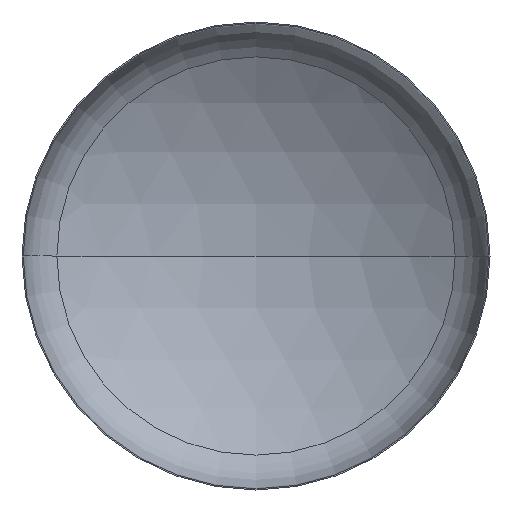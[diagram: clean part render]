
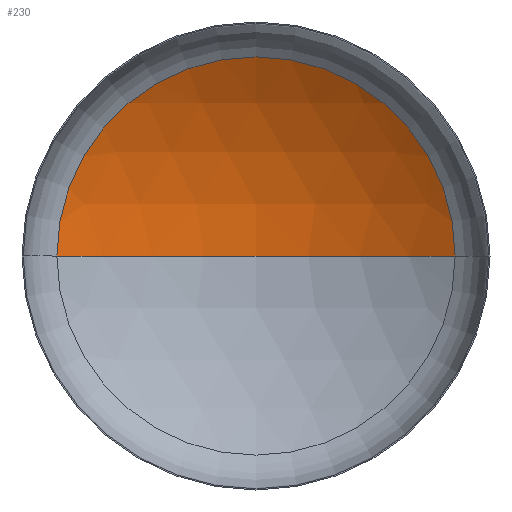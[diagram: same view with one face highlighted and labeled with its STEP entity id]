
A CAD part, front view. The second image highlights one B-rep face of the part: STEP entity #230.
In plain terms, the highlighted spherical face has radius 6000 mm.
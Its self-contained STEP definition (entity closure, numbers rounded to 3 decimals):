
#6 = CIRCLE ( 'NONE', #77, 6000. ) ;
#14 = VERTEX_POINT ( 'NONE', #261 ) ;
#27 = DIRECTION ( 'NONE',  ( -1., 0., 0. ) ) ;
#28 = DIRECTION ( 'NONE',  ( 0., 0., -1. ) ) ;
#32 = CARTESIAN_POINT ( 'NONE',  ( 0., -4047.816, 0. ) ) ;
#37 = AXIS2_PLACEMENT_3D ( 'NONE', #266, #376, #290 ) ;
#50 = DIRECTION ( 'NONE',  ( 1., 0., 0. ) ) ;
#77 = AXIS2_PLACEMENT_3D ( 'NONE', #406, #309, #112 ) ;
#81 = VERTEX_POINT ( 'NONE', #253 ) ;
#83 = AXIS2_PLACEMENT_3D ( 'NONE', #32, #28, #27 ) ;
#85 = AXIS2_PLACEMENT_3D ( 'NONE', #345, #343, #50 ) ;
#112 = DIRECTION ( 'NONE',  ( 1., 0., 0. ) ) ;
#125 = ORIENTED_EDGE ( 'NONE', *, *, #145, .T. ) ;
#138 = ORIENTED_EDGE ( 'NONE', *, *, #147, .T. ) ;
#145 = EDGE_CURVE ( 'NONE', #14, #81, #148, .T. ) ;
#147 = EDGE_CURVE ( 'NONE', #231, #14, #305, .T. ) ;
#148 = CIRCLE ( 'NONE', #85, 3191.331 ) ;
#151 = EDGE_CURVE ( 'NONE', #231, #81, #6, .T. ) ;
#156 = EDGE_LOOP ( 'NONE', ( #388, #138, #125 ) ) ;
#230 = ADVANCED_FACE ( 'NONE', ( #286 ), #295, .F. ) ;
#231 = VERTEX_POINT ( 'NONE', #353 ) ;
#253 = CARTESIAN_POINT ( 'NONE',  ( -3191.331, 1033.071, 0. ) ) ;
#261 = CARTESIAN_POINT ( 'NONE',  ( 3191.331, 1033.071, 0. ) ) ;
#266 = CARTESIAN_POINT ( 'NONE',  ( 0., -4047.816, 0. ) ) ;
#286 = FACE_OUTER_BOUND ( 'NONE', #156, .T. ) ;
#290 = DIRECTION ( 'NONE',  ( -1., 0., 0. ) ) ;
#295 = SPHERICAL_SURFACE ( 'NONE', #37, 6000. ) ;
#305 = CIRCLE ( 'NONE', #83, 6000. ) ;
#309 = DIRECTION ( 'NONE',  ( 0., 0., 1. ) ) ;
#343 = DIRECTION ( 'NONE',  ( 0., -1., 0. ) ) ;
#345 = CARTESIAN_POINT ( 'NONE',  ( 0., 1033.071, 0. ) ) ;
#353 = CARTESIAN_POINT ( 'NONE',  ( 0., 1952.184, 0. ) ) ;
#376 = DIRECTION ( 'NONE',  ( 0., 0., -1. ) ) ;
#388 = ORIENTED_EDGE ( 'NONE', *, *, #151, .F. ) ;
#406 = CARTESIAN_POINT ( 'NONE',  ( 0., -4047.816, 0. ) ) ;
